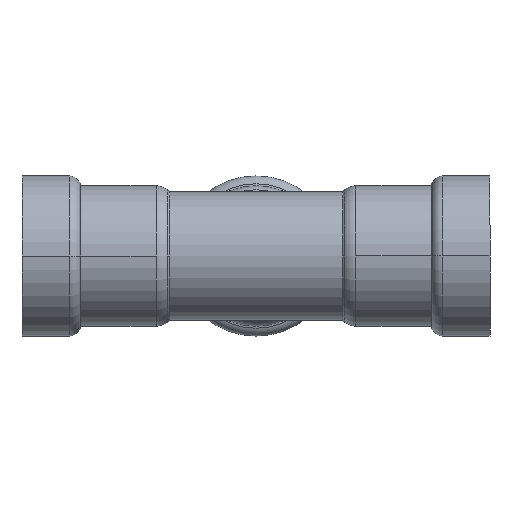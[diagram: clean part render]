
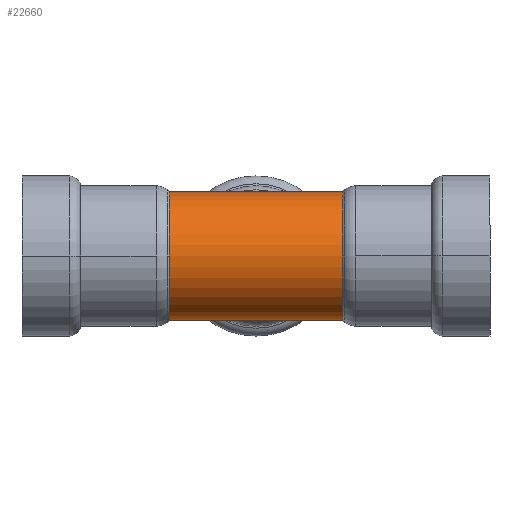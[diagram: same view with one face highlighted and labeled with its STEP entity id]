
A CAD part, front view. The second image highlights one B-rep face of the part: STEP entity #22660.
In plain terms, the highlighted cylindrical face has radius 22.5 mm (diameter 45 mm), a partial arc.
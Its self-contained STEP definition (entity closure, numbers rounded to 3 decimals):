
#22170=CARTESIAN_POINT('',(109.912,52.567,0.));
#22180=DIRECTION('',(-1.,0.,0.));
#22190=DIRECTION('',(0.,1.,0.));
#22200=AXIS2_PLACEMENT_3D('',#22170,#22180,#22190);
#22210=CYLINDRICAL_SURFACE('',#22200,22.5);
#22220=CARTESIAN_POINT('',(167.221,52.567,
0.));
#22230=DIRECTION('',(-1.,0.,0.));
#22240=DIRECTION('',(0.,1.,0.));
#22250=AXIS2_PLACEMENT_3D('',#22220,#22230,#22240);
#22260=CIRCLE('',#22250,22.5);
#22270=CARTESIAN_POINT('',(167.221,75.067,0.));
#22280=VERTEX_POINT('',#22270);
#22290=CARTESIAN_POINT('',(167.221,52.567,-22.5));
#22300=VERTEX_POINT('',#22290);
#22310=EDGE_CURVE('',#22280,#22300,#22260,.T.);
#22320=ORIENTED_EDGE('',*,*,#22310,.T.);
#22330=CARTESIAN_POINT('',(109.912,75.067,0.));
#22340=DIRECTION('',(-1.,0.,0.));
#22350=VECTOR('',#22340,1.);
#22360=LINE('',#22330,#22350);
#22370=CARTESIAN_POINT('',(106.602,75.067,0.));
#22380=VERTEX_POINT('',#22370);
#22390=EDGE_CURVE('',#22280,#22380,#22360,.T.);
#22400=ORIENTED_EDGE('',*,*,#22390,.F.);
#22410=CARTESIAN_POINT('',(106.602,52.567,
0.));
#22420=DIRECTION('',(-1.,0.,0.));
#22430=DIRECTION('',(0.,1.,0.));
#22440=AXIS2_PLACEMENT_3D('',#22410,#22420,#22430);
#22450=CIRCLE('',#22440,22.5);
#22460=CARTESIAN_POINT('',(106.602,52.567,-22.5));
#22470=VERTEX_POINT('',#22460);
#22480=EDGE_CURVE('',#22380,#22470,#22450,.T.);
#22490=ORIENTED_EDGE('',*,*,#22480,.F.);
#22500=CARTESIAN_POINT('',(106.602,30.067,
0.));
#22510=VERTEX_POINT('',#22500);
#22520=EDGE_CURVE('',#22470,#22510,#22450,.T.);
#22530=ORIENTED_EDGE('',*,*,#22520,.F.);
#22540=CARTESIAN_POINT('',(109.912,30.067,0.));
#22550=DIRECTION('',(-1.,0.,0.));
#22560=VECTOR('',#22550,1.);
#22570=LINE('',#22540,#22560);
#22580=CARTESIAN_POINT('',(167.221,30.067,
0.));
#22590=VERTEX_POINT('',#22580);
#22600=EDGE_CURVE('',#22590,#22510,#22570,.T.);
#22610=ORIENTED_EDGE('',*,*,#22600,.T.);
#22620=EDGE_CURVE('',#22300,#22590,#22260,.T.);
#22630=ORIENTED_EDGE('',*,*,#22620,.T.);
#22640=EDGE_LOOP('',(#22630,#22610,#22530,#22490,#22400,#22320));
#22650=FACE_OUTER_BOUND('',#22640,.T.);
#22660=ADVANCED_FACE('',(#22650),#22210,.T.);
